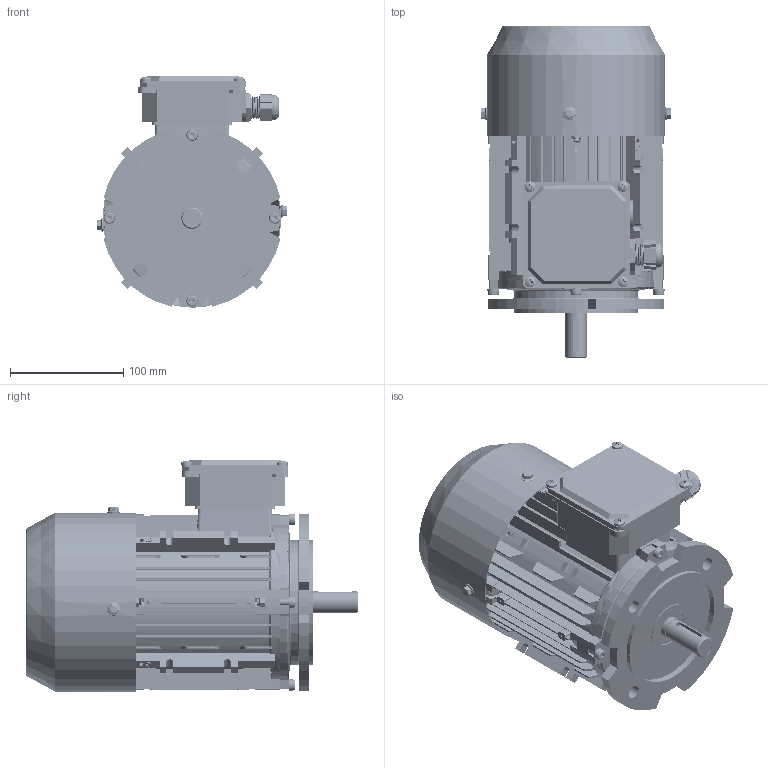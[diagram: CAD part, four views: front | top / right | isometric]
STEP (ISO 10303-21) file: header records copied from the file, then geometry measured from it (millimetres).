
FILE_DESCRIPTION (( 'STEP AP203' ), '1' );
FILE_NAME ('ME3-80B5R 3Dͼ.STEP', '2024-07-29T01:10:17', ( 'User' ), ( 'China' ), 'SwSTEP 2.0', 'SolidWorks 2018', '' );
FILE_SCHEMA (( 'CONFIG_CONTROL_DESIGN' ));
Length unit declared in the file: millimetre
Products named in the file (18): 黑芛20X1.5; cross recessed pan head screws gb_GB_CROSS_SCREWS_TYPE1 M5X8-8  H type-C; ME2-80 B5R瑞盖; MS63-71諉盄碟裔; 34X20X7蚐猾; hex nuts, style 2-grades ab gb_GB_HEXAGON_TYPE13 M5 Normal Style-C; ME3 80儂褲; ME3-80B5R 3Dͼ; hex lobular socket head cap screws-4.8 gb_GB_HEXAGON_TYPE21 M6X30-30-S; ME2  B3后瑞盖; ME2  80瑞欶; ME2  80蛌粣; hex flange bolts-heavy grade b gb_GB_FASTENER_BOLT_HFBB M5X10-C; MS63-71諉盄碟菁釱; wave single coil spring lock washers gb_GB_FASTENER_WASHER_WSLW 6; 蹟杶郋M20X1.5; hex lobular socket head cap screws-4.8 gb_GB_HEXAGON_TYPE21 M6X30-30-C; 蹟簸M20X1.5
Assembly tree (41 placements, depth 2):
  ME3-80B5R 3Dͼ
    ME3 80儂褲
    ME2  B3后瑞盖
    ME2  80蛌粣
    MS63-71諉盄碟菁釱
    蹟杶郋M20X1.5
    蹟簸M20X1.5
    cross recessed pan head screws gb_GB_CROSS_SCREWS_TYPE1 M5X8-8  H type-C  x8
    MS63-71諉盄碟裔
    hex nuts, style 2-grades ab gb_GB_HEXAGON_TYPE13 M5 Normal Style-C  x7
    hex lobular socket head cap screws-4.8 gb_GB_HEXAGON_TYPE21 M6X30-30-S  x4
    ME2  80瑞欶
    hex flange bolts-heavy grade b gb_GB_FASTENER_BOLT_HFBB M5X10-C  x3
    wave single coil spring lock washers gb_GB_FASTENER_WASHER_WSLW 6  x4
    hex lobular socket head cap screws-4.8 gb_GB_HEXAGON_TYPE21 M6X30-30-C  x4
    黑芛20X1.5
    ME2-80 B5R瑞盖
    34X20X7蚐猾
Bounding box: 168.19 x 292.56 x 203.8 mm (x, y, z)
Volume: 943688.3 mm3; surface area: 602868.1 mm2
Topology: 41 solids, 43 shells, 4936 faces, 12713 edges, 7975 vertices
Faces by surface type: plane 2303, cylinder 1131, cone 1073, torus 211, bspline 202, sphere 16
Entity records: 136988 total; most frequent: CARTESIAN_POINT 44851, ORIENTED_EDGE 19930, DIRECTION 16946, EDGE_CURVE 9965, VERTEX_POINT 6479, LINE 5728, VECTOR 5728, AXIS2_PLACEMENT_3D 5609
